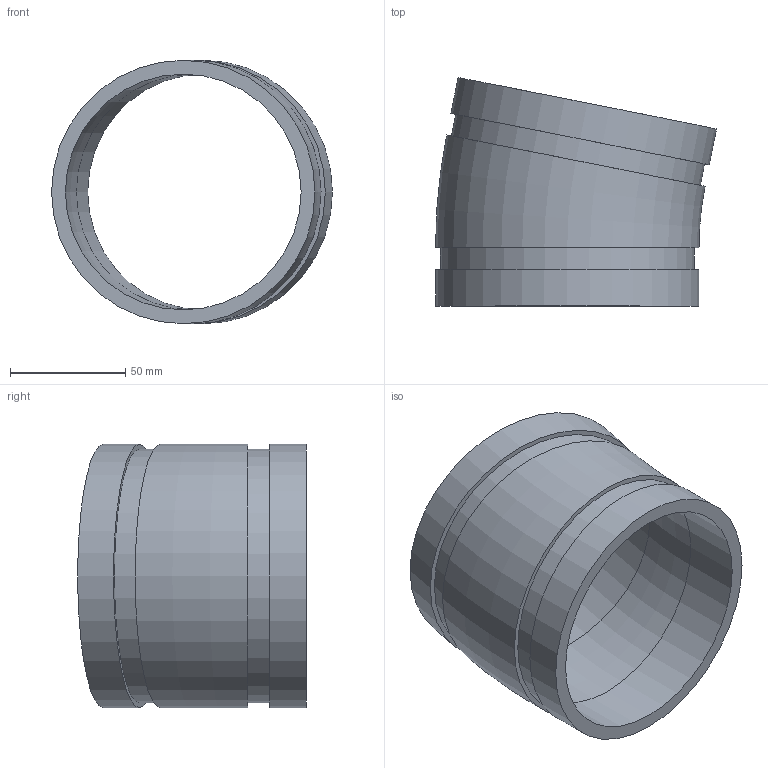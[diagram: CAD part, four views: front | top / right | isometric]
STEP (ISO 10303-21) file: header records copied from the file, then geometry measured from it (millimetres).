
FILE_DESCRIPTION(/* description */ ('VIC 11-1/4 DEG. ELBOW No 13','CAx-IF Rec.Pracs.---Representation and Presentation of Product Manufacturing Information (PMI)---4.0---2014-10-13'),/* implementation_level */ '2;1');
FILE_NAME(/* name */ 'C:\Users\kkamble\AppData\Roaming\Autodesk\ApplicationPlugins\Back Up\Victaulic_IPS_Elbow 11.25 Deg_No 13 (OGS)\Victaulic_IPS_Elbow 11.25 Deg_No 13 (OGS)_4 (100).stp',/* time_stamp */ '2020-07-24T08:09:07+06:00',/* author */ ('CONSTRUCTION PIPING SERVICES'),/* organization */ ('Victaulic'),/* preprocessor_version */ 'ST-DEVELOPER v17.2',/* originating_system */ 'Autodesk Inventor 2019',/* authorisation */ '');
FILE_SCHEMA (('AP242_MANAGED_MODEL_BASED_3D_ENGINEERING_MIM_LF { 1 0 10303 442 1 1 4 }'));
Length unit declared in the file: inch
Products named in the file (1): 013-04.0
Bounding box: 121.87 x 99.2 x 114.3 mm (x, y, z)
Volume: 167640.6 mm3; surface area: 67214.7 mm2
Topology: 1 solids, 1 shells, 14 faces, 32 edges, 24 vertices
Faces by surface type: plane 6, cylinder 6, torus 2
Full cylindrical faces by diameter (mm): 102.26 x2, 110.084 x2, 114.3 x2
Entity records: 487 total; most frequent: DIRECTION 88, CARTESIAN_POINT 71, ORIENTED_EDGE 64, AXIS2_PLACEMENT_3D 41, EDGE_CURVE 32, CIRCLE 26, VERTEX_POINT 24, EDGE_LOOP 20
